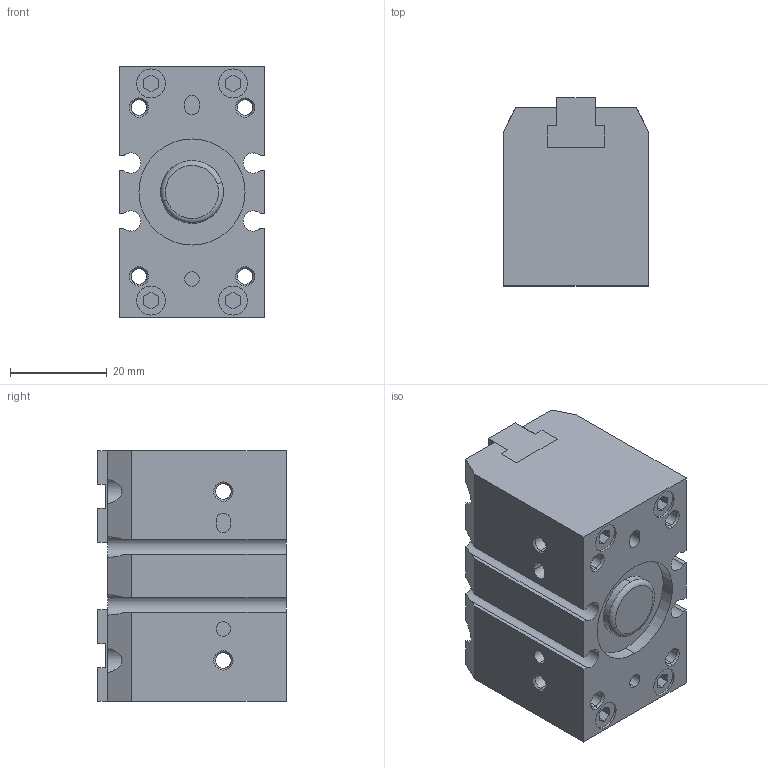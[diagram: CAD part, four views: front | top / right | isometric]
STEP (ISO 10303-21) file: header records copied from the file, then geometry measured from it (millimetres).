
FILE_DESCRIPTION (( 'STEP AP203' ), '1' );
FILE_NAME ('SDW20_0_.STEP', '2022-10-17T02:11:36', ( '' ), ( '' ), 'SwSTEP 2.0', 'SolidWorks 2018', '' );
FILE_SCHEMA (( 'CONFIG_CONTROL_DESIGN' ));
Length unit declared in the file: millimetre
Products named in the file (3): SDW20-01; SDW20_0_; SDW20-06
Assembly tree (3 placements, depth 2):
  SDW20_0_
    SDW20-01  x2
    SDW20-06
Bounding box: 30 x 39 x 52 mm (x, y, z)
Volume: 51646.3 mm3; surface area: 16162 mm2
Topology: 3 solids, 3 shells, 246 faces, 604 edges, 388 vertices
Faces by surface type: plane 140, cylinder 80, cone 24, torus 2
Entity records: 7173 total; most frequent: CARTESIAN_POINT 1520, DIRECTION 1116, ORIENTED_EDGE 1084, EDGE_CURVE 542, AXIS2_PLACEMENT_3D 378, LINE 360, VECTOR 360, VERTEX_POINT 348
